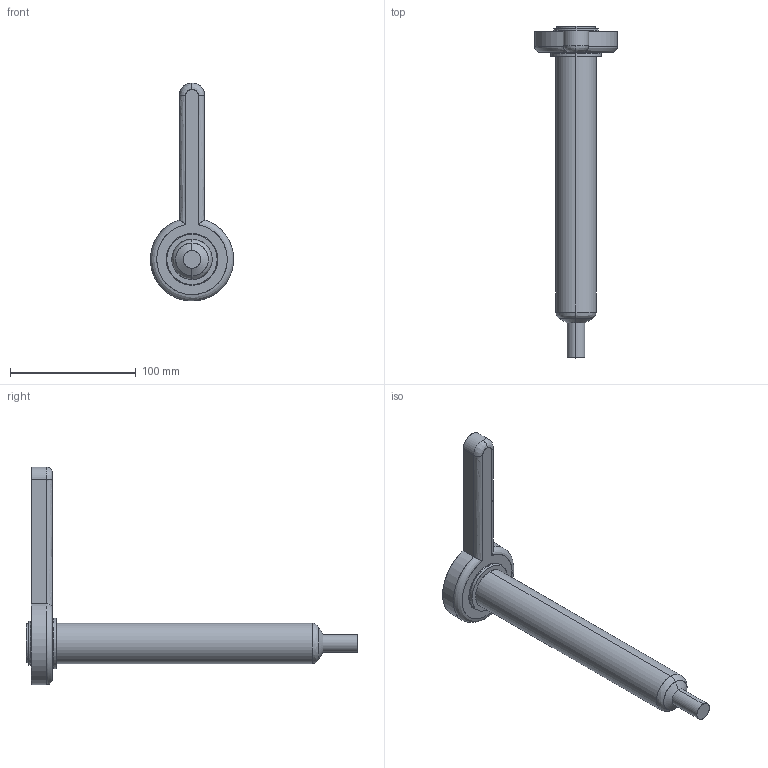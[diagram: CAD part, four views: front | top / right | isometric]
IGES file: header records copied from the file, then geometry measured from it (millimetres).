
Start section: SolidWorks IGES file using analytic representation for surfaces
Global section: file name: C:\Documents and Settings\ws-20\Desktop\TEMPORANEA\Sede UGBE4005-S-A C-214 L-236 P-25.IGS; native system: SolidWorks 2012; preprocessor: SolidWorks 2012; author: ws-20; date: 120306.141625; units: millimetre
Bounding box: 65.99 x 263.54 x 173 mm (x, y, z)
Surface area: 39959.3 mm2 (no closed solid volume)
Topology: 0 solids, 0 shells, 34 faces, 786 edges, 786 vertices
Faces by surface type: revolution 21, bspline 13
